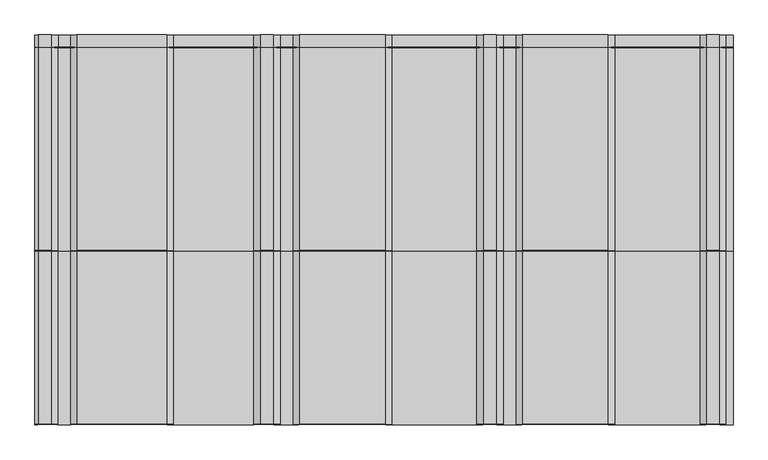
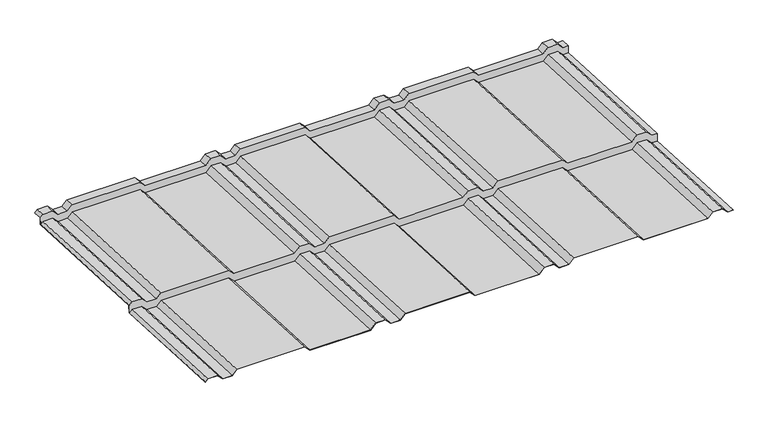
"""IFC4 building model written with IfcOpenShell, lengths in millimetres: proxy geometry, AQUAPLAST - Blachodachówka Alice : Blachodachówka Alice."""

from ifc_helpers import new_model, si_unit, origin, place, context, project, spatial, faceted_brep, source, transform, mapped, element, save


def specialty_equipment_5842ac47(model_context):
    return source(origin(), model_context, "Body", "Brep", [
        faceted_brep([(-566.0477972, 699.809845, 29.1155052), (-571.7598776, 699.5258325, 23.4104899), (-571.7598776, 698.711645, 7.0557437), (-566.0477972, 698.9956575, 12.760759), (-543.5017928, 698.9956575, 12.760759), (-532.0017928, 698.4238617, 1.274983), (-510.6231132, 698.4238617, 1.274983), (-499.6231132, 698.9707968, 12.2613774), (-345.1055852, 698.9707968, 12.2613774), (-333.6055852, 698.399001, 0.7756015), (-195.9354926, 698.399001, 0.7756015), (-183.9354926, 698.9956575, 12.760759), (-161.7088996, 698.9956575, 12.760759), (-149.7088996, 698.399001, 0.7756015), (-128.1231132, 698.399001, 0.7756015), (-116.6231132, 698.9707968, 12.2613774), (30.5086777, 698.9707968, 12.2613774), (42.0086777, 698.399001, 0.7756015), (187.5101579, 698.399001, 0.7756015), (199.5101579, 698.9956575, 12.760759), (221.7367509, 698.9956575, 12.760759), (233.7367509, 698.399001, 0.7756015), (255.3225373, 698.399001, 0.7756015), (266.8225373, 698.9707968, 12.2613774), (413.9543281, 698.9707968, 12.2613774), (425.4543281, 698.399001, 0.7756015), (571.6593096, 698.399001, 0.7756015), (583.1593096, 698.9707968, 12.2613774), (605.2911004, 698.9707968, 12.2613774), (616.7911004, 698.399001, 0.7756015), (629.2401224, 698.399001, 0.7756015), (629.2401224, 699.2131885, 17.1303477), (616.7911004, 699.2131885, 17.1303477), (605.2911004, 699.7849843, 28.6161237), (583.1593096, 699.7849843, 28.6161237), (571.6593096, 699.2131885, 17.1303477), (425.4543281, 699.2131885, 17.1303477), (413.9543281, 699.7849843, 28.6161237), (266.8225373, 699.7849843, 28.6161237), (255.3225373, 699.2131885, 17.1303477), (233.7367509, 699.2131885, 17.1303477), (221.7367509, 699.809845, 29.1155052), (199.5101579, 699.809845, 29.1155052), (187.5101579, 699.2131885, 17.1303477), (42.0086777, 699.2131885, 17.1303477), (30.5086777, 699.7849843, 28.6161237), (-116.6231132, 699.7849843, 28.6161237), (-128.1231132, 699.2131885, 17.1303477), (-149.7088996, 699.2131885, 17.1303477), (-161.7088996, 699.809845, 29.1155052), (-183.9354926, 699.809845, 29.1155052), (-195.9354926, 699.2131885, 17.1303477), (-333.6055852, 699.2131885, 17.1303477), (-345.1055852, 699.7849843, 28.6161237), (-499.6231132, 699.7849843, 28.6161237), (-510.6231132, 699.2380492, 17.6297293), (-532.0017928, 699.2380492, 17.6297293), (-543.5017928, 699.809845, 29.1155052), (-510.4160064, 720.1872142, 16.0861988), (-532.2088996, 720.1872142, 16.0861988), (-543.7088996, 720.75901, 27.5719748), (-565.8406904, 720.75901, 27.5719748), (-571.7598776, 720.4646999, 21.6601089), (-571.7598776, 720.4998582, 22.3663411), (-566.0477972, 720.7838707, 28.0713564), (-543.5017928, 720.7838707, 28.0713564), (-532.0017928, 720.2120749, 16.5855804), (-510.6231132, 720.2120749, 16.5855804), (-499.6231132, 720.75901, 27.5719748), (-345.1055852, 720.75901, 27.5719748), (-333.6055852, 720.1872142, 16.0861988), (-195.9354926, 720.1872142, 16.0861988), (-183.9354926, 720.7838707, 28.0713564), (-161.7088996, 720.7838707, 28.0713564), (-149.7088996, 720.1872142, 16.0861988), (-128.1231132, 720.1872142, 16.0861988), (-116.6231132, 720.75901, 27.5719748), (30.5086777, 720.75901, 27.5719748), (42.0086777, 720.1872142, 16.0861988), (187.5101579, 720.1872142, 16.0861988), (199.5101579, 720.7838707, 28.0713564), (221.7367509, 720.7838707, 28.0713564), (233.7367509, 720.1872142, 16.0861988), (255.3225373, 720.1872142, 16.0861988), (266.8225373, 720.75901, 27.5719748), (413.9543281, 720.75901, 27.5719748), (425.4543281, 720.1872142, 16.0861988), (571.6593096, 720.1872142, 16.0861988), (583.1593096, 720.75901, 27.5719748), (605.2911004, 720.75901, 27.5719748), (616.7911004, 720.1872142, 16.0861988), (629.2401224, 720.1872142, 16.0861988), (629.2401224, 720.1623535, 15.5868173), (616.5839936, 720.1623535, 15.5868173), (605.0839936, 720.7341493, 27.0725932), (583.3664164, 720.7341493, 27.0725932), (571.8664164, 720.1623535, 15.5868173), (425.2472214, 720.1623535, 15.5868173), (413.7472214, 720.7341493, 27.0725932), (267.0296441, 720.7341493, 27.0725932), (255.5296441, 720.1623535, 15.5868173), (233.5296441, 720.1623535, 15.5868173), (221.5296441, 720.75901, 27.5719748), (199.7172647, 720.75901, 27.5719748), (187.7172647, 720.1623535, 15.5868173), (41.8015709, 720.1623535, 15.5868173), (30.3015709, 720.7341493, 27.0725932), (-116.4160064, 720.7341493, 27.0725932), (-127.9160064, 720.1623535, 15.5868173), (-149.9160064, 720.1623535, 15.5868173), (-161.9160064, 720.75901, 27.5719748), (-183.7283858, 720.75901, 27.5719748), (-195.7283858, 720.1623535, 15.5868173), (-333.8126919, 720.1623535, 15.5868173), (-345.3126919, 720.7341493, 27.0725932), (-499.4160064, 720.7341493, 27.0725932), (-571.7598776, 699.6752498, 6.2997901), (-571.7598776, 700.4894373, 22.6545364), (-565.8406904, 700.7837474, 28.5664023), (-543.7088996, 700.7837474, 28.5664023), (-532.2088996, 700.2119516, 17.0806263), (-510.4160064, 700.2119516, 17.0806263), (-499.4160064, 700.7588868, 28.0670207), (-345.3126919, 700.7588868, 28.0670207), (-333.8126919, 700.187091, 16.5812448), (-195.7283858, 700.187091, 16.5812448), (-183.7283858, 700.7837474, 28.5664023), (-161.9160064, 700.7837474, 28.5664023), (-149.9160064, 700.187091, 16.5812448), (-127.9160064, 700.187091, 16.5812448), (-116.4160064, 700.7588868, 28.0670207), (30.3015709, 700.7588868, 28.0670207), (41.8015709, 700.187091, 16.5812448), (187.7172647, 700.187091, 16.5812448), (199.7172647, 700.7837474, 28.5664023), (221.5296441, 700.7837474, 28.5664023), (233.5296441, 700.187091, 16.5812448), (255.5296441, 700.187091, 16.5812448), (267.0296441, 700.7588868, 28.0670207), (413.7472214, 700.7588868, 28.0670207), (425.2472214, 700.187091, 16.5812448), (571.8664164, 700.187091, 16.5812448), (583.3664164, 700.7588868, 28.0670207), (605.0839936, 700.7588868, 28.0670207), (616.5839936, 700.187091, 16.5812448), (629.2401224, 700.187091, 16.5812448), (629.2401224, 699.3729035, 0.2264985), (616.5839936, 699.3729035, 0.2264985), (605.0839936, 699.9446993, 11.7122745), (583.3664164, 699.9446993, 11.7122745), (571.8664164, 699.3729035, 0.2264985), (425.2472214, 699.3729035, 0.2264985), (413.7472214, 699.9446993, 11.7122745), (267.0296441, 699.9446993, 11.7122745), (255.5296441, 699.3729035, 0.2264985), (233.5296441, 699.3729035, 0.2264985), (221.5296441, 699.9695599, 12.2116561), (199.7172647, 699.9695599, 12.2116561), (187.7172647, 699.3729035, 0.2264985), (41.8015709, 699.3729035, 0.2264985), (30.3015709, 699.9446993, 11.7122745), (-116.4160064, 699.9446993, 11.7122745), (-127.9160064, 699.3729035, 0.2264985), (-149.9160064, 699.3729035, 0.2264985), (-161.9160064, 699.9695599, 12.2116561), (-183.7283858, 699.9695599, 12.2116561), (-195.7283858, 699.3729035, 0.2264985), (-333.8126919, 699.3729035, 0.2264985), (-345.3126919, 699.9446993, 11.7122745), (-499.4160064, 699.9446993, 11.7122745), (-510.4160064, 699.3977641, 0.7258801), (-532.2088996, 699.3977641, 0.7258801), (-543.7088996, 699.9695599, 12.2116561), (-565.8406904, 699.9695599, 12.2116561), (-566.0477972, 349.4285629, 30.1632399), (-571.7598776, 349.1445504, 24.4582245), (-571.7598776, 348.2744263, 6.9798698), (-566.0477972, 348.5584388, 12.6848851), (-543.5017928, 348.5584388, 12.6848851), (-532.0017928, 347.986643, 1.1991092), (-510.6231132, 347.986643, 1.1991092), (-499.6231132, 348.5335781, 12.1855036), (-345.1055852, 348.5335781, 12.1855036), (-333.6055852, 347.9617823, 0.6997276), (-195.9354926, 347.9617823, 0.6997276), (-183.9354926, 348.5584388, 12.6848851), (-161.7088996, 348.5584388, 12.6848851), (-149.7088996, 347.9617823, 0.6997276), (-128.1231132, 347.9617823, 0.6997276), (-116.6231132, 348.5335781, 12.1855036), (30.5086777, 348.5335781, 12.1855036), (42.0086777, 347.9617823, 0.6997276), (187.5101579, 347.9617823, 0.6997276), (199.5101579, 348.5584388, 12.6848851), (221.7367509, 348.5584388, 12.6848851), (233.7367509, 347.9617823, 0.6997276), (255.3225373, 347.9617823, 0.6997276), (266.8225373, 348.5335781, 12.1855036), (413.9543281, 348.5335781, 12.1855036), (425.4543281, 347.9617823, 0.6997276), (571.6593096, 347.9617823, 0.6997276), (583.1593096, 348.5335781, 12.1855036), (605.2911004, 348.5335781, 12.1855036), (616.7911004, 347.9617823, 0.6997276), (629.2401224, 347.9617823, 0.6997276), (629.2401224, 348.8319064, 18.1780823), (616.7911004, 348.8319064, 18.1780823), (605.2911004, 349.4037022, 29.6638583), (583.1593096, 349.4037022, 29.6638583), (571.6593096, 348.8319064, 18.1780823), (425.4543281, 348.8319064, 18.1780823), (413.9543281, 349.4037022, 29.6638583), (266.8225373, 349.4037022, 29.6638583), (255.3225373, 348.8319064, 18.1780823), (233.7367509, 348.8319064, 18.1780823), (221.7367509, 349.4285629, 30.1632399), (199.5101579, 349.4285629, 30.1632399), (187.5101579, 348.8319064, 18.1780823), (42.0086777, 348.8319064, 18.1780823), (30.5086777, 349.4037022, 29.6638583), (-116.6231132, 349.4037022, 29.6638583), (-128.1231132, 348.8319064, 18.1780823), (-149.7088996, 348.8319064, 18.1780823), (-161.7088996, 349.4285629, 30.1632399), (-183.9354926, 349.4285629, 30.1632399), (-195.9354926, 348.8319064, 18.1780823), (-333.6055852, 348.8319064, 18.1780823), (-345.1055852, 349.4037022, 29.6638583), (-499.6231132, 349.4037022, 29.6638583), (-510.6231132, 348.8567671, 18.6774639), (-532.0017928, 348.8567671, 18.6774639), (-543.5017928, 349.4285629, 30.1632399), (629.2401224, 349.8058088, 17.6289794), (616.5839936, 349.8058088, 17.6289794), (605.0839936, 350.3776046, 29.1147554), (583.3664164, 350.3776046, 29.1147554), (571.8664164, 349.8058088, 17.6289794), (425.2472214, 349.8058088, 17.6289794), (413.7472214, 350.3776046, 29.1147554), (267.0296441, 350.3776046, 29.1147554), (255.5296441, 349.8058088, 17.6289794), (233.5296441, 349.8058088, 17.6289794), (221.5296441, 350.4024653, 29.6141369), (199.7172647, 350.4024653, 29.6141369), (187.7172647, 349.8058088, 17.6289794), (41.8015709, 349.8058088, 17.6289794), (30.3015709, 350.3776046, 29.1147554), (-116.4160064, 350.3776046, 29.1147554), (-127.9160064, 349.8058088, 17.6289794), (-149.9160064, 349.8058088, 17.6289794), (-161.9160064, 350.4024653, 29.6141369), (-183.7283858, 350.4024653, 29.6141369), (-195.7283858, 349.8058088, 17.6289794), (-333.8126919, 349.8058088, 17.6289794), (-345.3126919, 350.3776046, 29.1147554), (-499.4160064, 350.3776046, 29.1147554), (-510.4160064, 349.8306695, 18.128361), (-532.2088996, 349.8306695, 18.128361), (-543.7088996, 350.4024653, 29.6141369), (-565.8406904, 350.4024653, 29.6141369), (-571.7598776, 350.1081552, 23.702271), (-510.4160064, 348.9605455, 0.6500062), (-532.2088996, 348.9605455, 0.6500062), (-543.7088996, 349.5323413, 12.1357822), (-565.8406904, 349.5323413, 12.1357822), (-571.7598776, 349.2380311, 6.2239163), (629.2401224, 348.9356848, 0.1506247), (616.5839936, 348.9356848, 0.1506247), (605.0839936, 349.5074806, 11.6364006), (583.3664164, 349.5074806, 11.6364006), (571.8664164, 348.9356848, 0.1506247), (425.2472214, 348.9356848, 0.1506247), (413.7472214, 349.5074806, 11.6364006), (267.0296441, 349.5074806, 11.6364006), (255.5296441, 348.9356848, 0.1506247), (233.5296441, 348.9356848, 0.1506247), (221.5296441, 349.5323413, 12.1357822), (199.7172647, 349.5323413, 12.1357822), (187.7172647, 348.9356848, 0.1506247), (41.8015709, 348.9356848, 0.1506247), (30.3015709, 349.5074806, 11.6364006), (-116.4160064, 349.5074806, 11.6364006), (-127.9160064, 348.9356848, 0.1506247), (-149.9160064, 348.9356848, 0.1506247), (-161.9160064, 349.5323413, 12.1357822), (-183.7283858, 349.5323413, 12.1357822), (-195.7283858, 348.9356848, 0.1506247), (-333.8126919, 348.9356848, 0.1506247), (-345.3126919, 349.5074806, 11.6364006), (-499.4160064, 349.5074806, 11.6364006), (-532.0017928, 49.3564679, 16.0658), (-510.6231132, 49.3564679, 16.0658), (-499.6231132, 49.903403, 27.0521944), (-345.1055852, 49.903403, 27.0521944), (-333.6055852, 49.3316072, 15.5664184), (-195.9354926, 49.3316072, 15.5664184), (-183.9354926, 49.9282637, 27.5515759), (-161.7088996, 49.9282637, 27.5515759), (-149.7088996, 49.3316072, 15.5664184), (-128.1231132, 49.3316072, 15.5664184), (-116.6231132, 49.903403, 27.0521944), (30.5086777, 49.903403, 27.0521944), (42.0086777, 49.3316072, 15.5664184), (187.5101579, 49.3316072, 15.5664184), (199.5101579, 49.9282637, 27.5515759), (221.7367509, 49.9282637, 27.5515759), (233.7367509, 49.3316072, 15.5664184), (255.3225373, 49.3316072, 15.5664184), (266.8225373, 49.903403, 27.0521944), (413.9543281, 49.903403, 27.0521944), (425.4543281, 49.3316072, 15.5664184), (571.6593096, 49.3316072, 15.5664184), (583.1593096, 49.903403, 27.0521944), (605.2911004, 49.903403, 27.0521944), (616.7911004, 49.3316072, 15.5664184), (629.2401224, 49.3316072, 15.5664184), (629.2401224, 49.3067465, 15.0670368), (616.5839936, 49.3067465, 15.0670368), (616.5839936, 347.9369216, 0.200346), (605.0839936, 49.8785423, 26.5528128), (605.0839936, 348.5087174, 11.686122), (583.3664164, 49.8785423, 26.5528128), (583.3664164, 348.5087174, 11.686122), (571.8664164, 49.3067465, 15.0670368), (571.8664164, 347.9369216, 0.200346), (425.2472214, 49.3067465, 15.0670368), (425.2472214, 347.9369216, 0.200346), (413.7472214, 49.8785423, 26.5528128), (413.7472214, 348.5087174, 11.686122), (267.0296441, 49.8785423, 26.5528128), (267.0296441, 348.5087174, 11.686122), (255.5296441, 49.3067465, 15.0670368), (255.5296441, 347.9369216, 0.200346), (233.5296441, 49.3067465, 15.0670368), (233.5296441, 347.9369216, 0.200346), (221.5296441, 49.903403, 27.0521944), (221.5296441, 348.5335781, 12.1855036), (199.7172647, 49.903403, 27.0521944), (199.7172647, 348.5335781, 12.1855036), (187.7172647, 49.3067465, 15.0670368), (187.7172647, 347.9369216, 0.200346), (41.8015709, 49.3067465, 15.0670368), (41.8015709, 347.9369216, 0.200346), (30.3015709, 49.8785423, 26.5528128), (30.3015709, 348.5087174, 11.686122), (-116.4160064, 49.8785423, 26.5528128), (-116.4160064, 348.5087174, 11.686122), (-127.9160064, 49.3067465, 15.0670368), (-127.9160064, 347.9369216, 0.200346), (-149.9160064, 49.3067465, 15.0670368), (-149.9160064, 347.9369216, 0.200346), (-161.9160064, 49.903403, 27.0521944), (-161.9160064, 348.5335781, 12.1855036), (-183.7283858, 49.903403, 27.0521944), (-183.7283858, 348.5335781, 12.1855036), (-195.7283858, 49.3067465, 15.0670368), (-195.7283858, 347.9369216, 0.200346), (-333.8126919, 49.3067465, 15.0670368), (-333.8126919, 347.9369216, 0.200346), (-345.3126919, 49.8785423, 26.5528128), (-345.3126919, 348.5087174, 11.686122), (-499.4160064, 49.8785423, 26.5528128), (-499.4160064, 348.5087174, 11.686122), (-510.4160064, 49.3316072, 15.5664184), (-510.4160064, 347.9617823, 0.6997276), (-532.2088996, 49.3316072, 15.5664184), (-532.2088996, 347.9617823, 0.6997276), (-543.7088996, 49.903403, 27.0521944), (-543.7088996, 348.5335781, 12.1855036), (-565.8406904, 49.903403, 27.0521944), (-565.8406904, 348.5335781, 12.1855036), (-571.7598776, 49.6090929, 21.1403284), (-571.7598776, 49.6442512, 21.8465606), (-566.0477972, 49.9282637, 27.5515759), (-543.5017928, 49.9282637, 27.5515759), (-566.0477972, 700.8086081, 29.0657839), (-543.5017928, 700.8086081, 29.0657839), (-532.0017928, 700.2368123, 17.5800079), (-510.6231132, 700.2368123, 17.5800079), (-499.6231132, 700.7837474, 28.5664023), (-345.1055852, 700.7837474, 28.5664023), (-333.6055852, 700.2119516, 17.0806263), (-195.9354926, 700.2119516, 17.0806263), (-183.9354926, 700.8086081, 29.0657839), (-161.7088996, 700.8086081, 29.0657839), (-149.7088996, 700.2119516, 17.0806263), (-128.1231132, 700.2119516, 17.0806263), (-116.6231132, 700.7837474, 28.5664023), (30.5086777, 700.7837474, 28.5664023), (42.0086777, 700.2119516, 17.0806263), (187.5101579, 700.2119516, 17.0806263), (199.5101579, 700.8086081, 29.0657839), (221.7367509, 700.8086081, 29.0657839), (233.7367509, 700.2119516, 17.0806263), (255.3225373, 700.2119516, 17.0806263), (266.8225373, 700.7837474, 28.5664023), (413.9543281, 700.7837474, 28.5664023), (425.4543281, 700.2119516, 17.0806263), (571.6593096, 700.2119516, 17.0806263), (583.1593096, 700.7837474, 28.5664023), (605.2911004, 700.7837474, 28.5664023), (616.7911004, 700.2119516, 17.0806263)], [[[0, 1, 2, 3, 4, 5, 6, 7, 8, 9, 10, 11, 12, 13, 14, 15, 16, 17, 18, 19, 20, 21, 22, 23, 24, 25, 26, 27, 28, 29, 30, 31, 32, 33, 34, 35, 36, 37, 38, 39, 40, 41, 42, 43, 44, 45, 46, 47, 48, 49, 50, 51, 52, 53, 54, 55, 56, 57]], [[58, 59, 60, 61, 62, 63, 64, 65, 66, 67, 68, 69, 70, 71, 72, 73, 74, 75, 76, 77, 78, 79, 80, 81, 82, 83, 84, 85, 86, 87, 88, 89, 90, 91, 92, 93, 94, 95, 96, 97, 98, 99, 100, 101, 102, 103, 104, 105, 106, 107, 108, 109, 110, 111, 112, 113, 114, 115]], [[116, 117, 118, 119, 120, 121, 122, 123, 124, 125, 126, 127, 128, 129, 130, 131, 132, 133, 134, 135, 136, 137, 138, 139, 140, 141, 142, 143, 144, 145, 146, 147, 148, 149, 150, 151, 152, 153, 154, 155, 156, 157, 158, 159, 160, 161, 162, 163, 164, 165, 166, 167, 168, 169, 170, 171, 172, 173]], [[174, 175, 176, 177, 178, 179, 180, 181, 182, 183, 184, 185, 186, 187, 188, 189, 190, 191, 192, 193, 194, 195, 196, 197, 198, 199, 200, 201, 202, 203, 204, 205, 206, 207, 208, 209, 210, 211, 212, 213, 214, 215, 216, 217, 218, 219, 220, 221, 222, 223, 224, 225, 226, 227, 228, 229, 230, 231]], [[229, 6, 5, 230]], [[228, 7, 6, 229]], [[227, 8, 7, 228]], [[226, 9, 8, 227]], [[225, 10, 9, 226]], [[224, 11, 10, 225]], [[223, 12, 11, 224]], [[222, 13, 12, 223]], [[221, 14, 13, 222]], [[220, 15, 14, 221]], [[219, 16, 15, 220]], [[218, 17, 16, 219]], [[217, 18, 17, 218]], [[216, 19, 18, 217]], [[215, 20, 19, 216]], [[214, 21, 20, 215]], [[213, 22, 21, 214]], [[212, 23, 22, 213]], [[211, 24, 23, 212]], [[210, 25, 24, 211]], [[209, 26, 25, 210]], [[208, 27, 26, 209]], [[207, 28, 27, 208]], [[206, 29, 28, 207]], [[206, 205, 30, 29]], [[146, 232, 233, 147]], [[147, 233, 234, 148]], [[148, 234, 235, 149]], [[149, 235, 236, 150]], [[150, 236, 237, 151]], [[151, 237, 238, 152]], [[152, 238, 239, 153]], [[153, 239, 240, 154]], [[154, 240, 241, 155]], [[155, 241, 242, 156]], [[156, 242, 243, 157]], [[157, 243, 244, 158]], [[158, 244, 245, 159]], [[159, 245, 246, 160]], [[160, 246, 247, 161]], [[161, 247, 248, 162]], [[162, 248, 249, 163]], [[163, 249, 250, 164]], [[164, 250, 251, 165]], [[165, 251, 252, 166]], [[166, 252, 253, 167]], [[167, 253, 254, 168]], [[168, 254, 255, 169]], [[169, 255, 256, 170]], [[170, 256, 257, 171]], [[171, 257, 258, 172]], [[172, 258, 259, 173]], [[173, 259, 260, 116]], [[3, 2, 175, 174]], [[231, 4, 3, 174]], [[230, 5, 4, 231]], [[261, 262, 263, 264, 265, 260, 259, 258, 257, 256, 255, 254, 253, 252, 251, 250, 249, 248, 247, 246, 245, 244, 243, 242, 241, 240, 239, 238, 237, 236, 235, 234, 233, 232, 266, 267, 268, 269, 270, 271, 272, 273, 274, 275, 276, 277, 278, 279, 280, 281, 282, 283, 284, 285, 286, 287, 288, 289]], [[179, 290, 291, 180]], [[180, 291, 292, 181]], [[181, 292, 293, 182]], [[182, 293, 294, 183]], [[183, 294, 295, 184]], [[184, 295, 296, 185]], [[185, 296, 297, 186]], [[186, 297, 298, 187]], [[187, 298, 299, 188]], [[188, 299, 300, 189]], [[189, 300, 301, 190]], [[190, 301, 302, 191]], [[191, 302, 303, 192]], [[192, 303, 304, 193]], [[193, 304, 305, 194]], [[194, 305, 306, 195]], [[195, 306, 307, 196]], [[196, 307, 308, 197]], [[197, 308, 309, 198]], [[198, 309, 310, 199]], [[199, 310, 311, 200]], [[200, 311, 312, 201]], [[201, 312, 313, 202]], [[202, 313, 314, 203]], [[203, 314, 315, 204]], [[266, 316, 317, 318, 267]], [[267, 318, 317, 319, 320, 268]], [[268, 320, 319, 321, 322, 269]], [[269, 322, 321, 323, 324, 270]], [[270, 324, 323, 325, 326, 271]], [[271, 326, 325, 327, 328, 272]], [[272, 328, 327, 329, 330, 273]], [[273, 330, 329, 331, 332, 274]], [[274, 332, 331, 333, 334, 275]], [[275, 334, 333, 335, 336, 276]], [[276, 336, 335, 337, 338, 277]], [[277, 338, 337, 339, 340, 278]], [[278, 340, 339, 341, 342, 279]], [[279, 342, 341, 343, 344, 280]], [[280, 344, 343, 345, 346, 281]], [[281, 346, 345, 347, 348, 282]], [[282, 348, 347, 349, 350, 283]], [[283, 350, 349, 351, 352, 284]], [[284, 352, 351, 353, 354, 285]], [[285, 354, 353, 355, 356, 286]], [[286, 356, 355, 357, 358, 287]], [[287, 358, 357, 359, 360, 288]], [[288, 360, 359, 361, 362, 289]], [[289, 362, 361, 363, 364, 261]], [[261, 364, 363, 365, 366, 262]], [[262, 366, 365, 367, 368, 263]], [[263, 368, 367, 369, 370, 264]], [[370, 369, 371, 265, 264]], [[176, 372, 373, 177]], [[177, 373, 374, 178]], [[178, 374, 290, 179]], [[58, 121, 120, 59]], [[59, 120, 119, 60]], [[60, 119, 118, 61]], [[118, 117, 62, 61]], [[64, 63, 1, 0, 375]], [[57, 376, 65, 64, 375, 0]], [[56, 377, 66, 65, 376, 57]], [[55, 378, 67, 66, 377, 56]], [[54, 379, 68, 67, 378, 55]], [[53, 380, 69, 68, 379, 54]], [[52, 381, 70, 69, 380, 53]], [[51, 382, 71, 70, 381, 52]], [[50, 383, 72, 71, 382, 51]], [[49, 384, 73, 72, 383, 50]], [[48, 385, 74, 73, 384, 49]], [[47, 386, 75, 74, 385, 48]], [[46, 387, 76, 75, 386, 47]], [[45, 388, 77, 76, 387, 46]], [[44, 389, 78, 77, 388, 45]], [[43, 390, 79, 78, 389, 44]], [[42, 391, 80, 79, 390, 43]], [[41, 392, 81, 80, 391, 42]], [[40, 393, 82, 81, 392, 41]], [[39, 394, 83, 82, 393, 40]], [[38, 395, 84, 83, 394, 39]], [[37, 396, 85, 84, 395, 38]], [[36, 397, 86, 85, 396, 37]], [[35, 398, 87, 86, 397, 36]], [[34, 399, 88, 87, 398, 35]], [[33, 400, 89, 88, 399, 34]], [[32, 401, 90, 89, 400, 33]], [[401, 32, 31, 91, 90]], [[92, 145, 144, 93]], [[93, 144, 143, 94]], [[94, 143, 142, 95]], [[95, 142, 141, 96]], [[96, 141, 140, 97]], [[97, 140, 139, 98]], [[98, 139, 138, 99]], [[99, 138, 137, 100]], [[100, 137, 136, 101]], [[101, 136, 135, 102]], [[102, 135, 134, 103]], [[103, 134, 133, 104]], [[104, 133, 132, 105]], [[105, 132, 131, 106]], [[106, 131, 130, 107]], [[107, 130, 129, 108]], [[108, 129, 128, 109]], [[109, 128, 127, 110]], [[110, 127, 126, 111]], [[111, 126, 125, 112]], [[112, 125, 124, 113]], [[113, 124, 123, 114]], [[114, 123, 122, 115]], [[115, 122, 121, 58]], [[145, 92, 91, 31, 30, 205, 204, 315, 316, 266, 232, 146]], [[116, 260, 265, 371, 372, 176, 175, 2, 1, 63, 62, 117]], [[290, 374, 373, 372, 371, 369, 367, 365, 363, 361, 359, 357, 355, 353, 351, 349, 347, 345, 343, 341, 339, 337, 335, 333, 331, 329, 327, 325, 323, 321, 319, 317, 316, 315, 314, 313, 312, 311, 310, 309, 308, 307, 306, 305, 304, 303, 302, 301, 300, 299, 298, 297, 296, 295, 294, 293, 292, 291]]]),
    ])


if __name__ == "__main__":
    model = new_model("IFC4")
    model_context = context("Model", 3, world=origin())
    ifc_project = project(units=[si_unit("LENGTHUNIT", "METRE", prefix="MILLI")], contexts=[model_context])
    site = spatial("IfcSite", under=ifc_project)
    building = spatial("IfcBuilding", under=site)
    placement = place(None, origin())
    specialty_equipment_shape = specialty_equipment_5842ac47(model_context)
    element("IfcBuildingElementProxy", 1, Name="AQUAPLAST - Blachodachówka Alice : Blachodachówka Alice", ObjectType="AQUAPLAST - Blachodachówka Alice : Blachodachówka Alice", at=placement, inside=building, context=model_context, shape_type="MappedRepresentation", body=[
        mapped(specialty_equipment_shape, transform((0.0, 0.0, 0.0), x_axis=(1.0, 0.0, 0.0), y_axis=(0.0, 1.0, 0.0), z_axis=(0.0, 0.0, 1.0))),
    ])
    save(model, "model.ifc")
